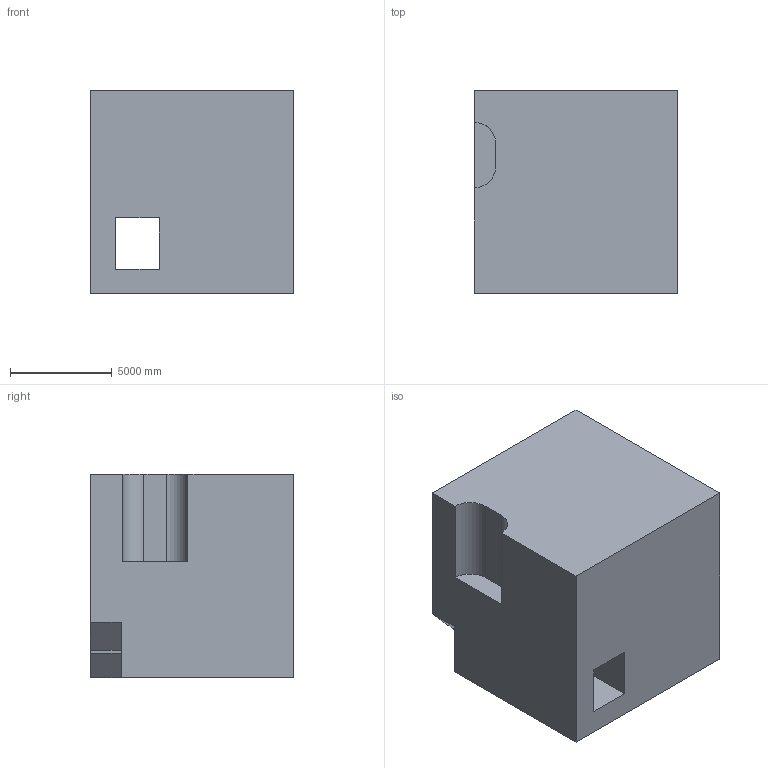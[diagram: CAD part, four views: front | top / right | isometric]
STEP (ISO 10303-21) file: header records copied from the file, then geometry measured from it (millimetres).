
FILE_DESCRIPTION (( 'STEP AP203' ), '1' );
FILE_NAME ('1401.STEP', '2022-08-18T14:15:35', ( 'user' ), ( '' ), 'SwSTEP 2.0', 'SolidWorks 2021', '' );
FILE_SCHEMA (( 'CONFIG_CONTROL_DESIGN' ));
Length unit declared in the file: centimetre
Products named in the file (1): 1401
Bounding box: 10000 x 10000 x 10000 mm (x, y, z)
Volume: 877764745296.5 mm3; surface area: 727323178.8 mm2
Topology: 1 solids, 1 shells, 24 faces, 69 edges, 46 vertices
Faces by surface type: plane 20, cylinder 4
Entity records: 862 total; most frequent: CARTESIAN_POINT 140, ORIENTED_EDGE 138, DIRECTION 127, EDGE_CURVE 69, VECTOR 61, LINE 61, VERTEX_POINT 46, AXIS2_PLACEMENT_3D 33
